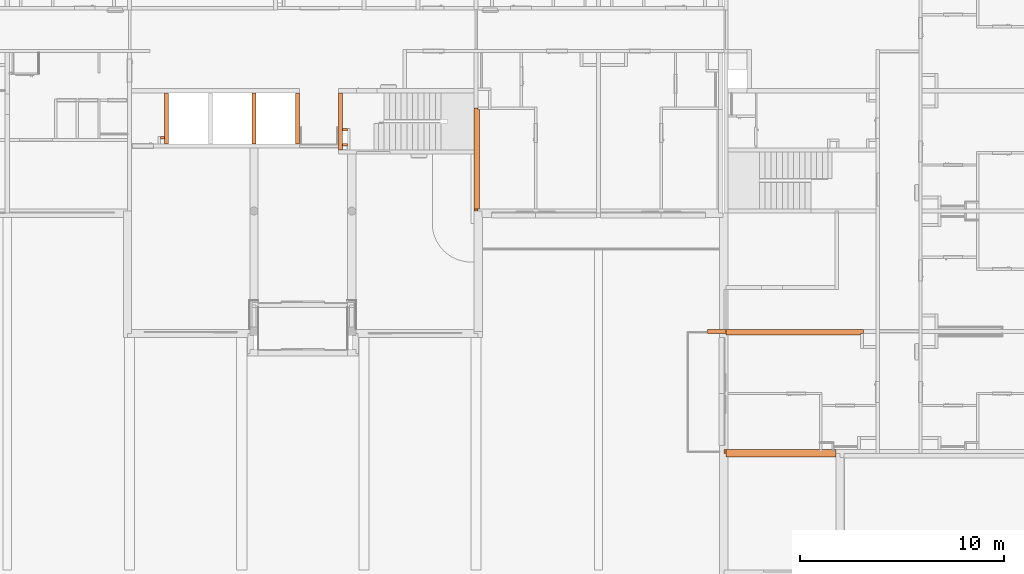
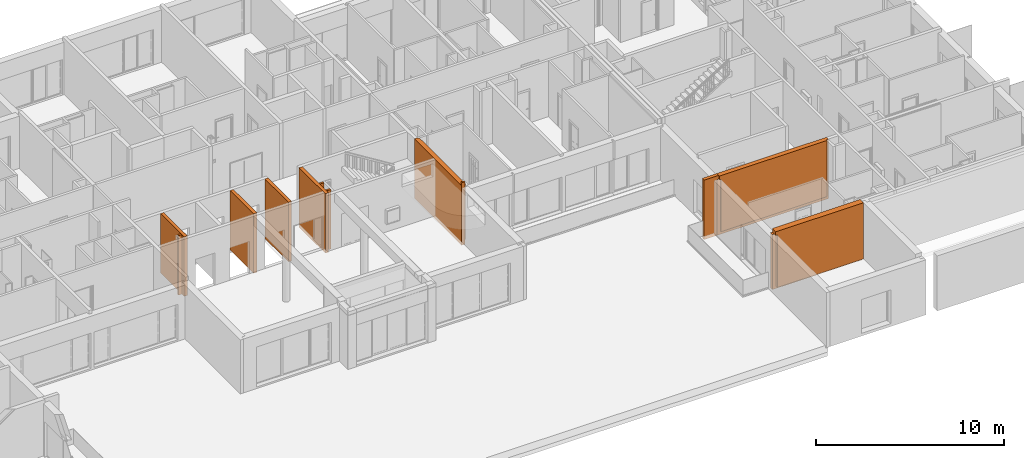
# One storey, part 37 of 46: 11 proxies.
"""IFC2X3 building model written with IfcOpenShell, lengths in millimetres."""

from ifc_helpers import new_model, entity, si_unit, converted_unit, derived_unit, money_unit, direction, frame, origin_with_axes, place, context, subcontext, project, spatial, faceted_brep, material, material_list, type_object, element, save


model = new_model("IFC2X3")

# Units and contexts
model_context = context("Model", 3, precision=0.01, world=origin_with_axes(), true_north=direction((0.34421633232, 0.938890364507)))
body_context = subcontext(model_context, "Body", "Model", "MODEL_VIEW")
ifc_project = project(units=[si_unit("LENGTHUNIT", "METRE", prefix="MILLI"), si_unit("AREAUNIT", "SQUARE_METRE"), si_unit("VOLUMEUNIT", "CUBIC_METRE"), converted_unit("PLANEANGLEUNIT", "DEGREE", entity("IfcPlaneAngleMeasure", 0.0174532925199), si_unit("PLANEANGLEUNIT", "RADIAN"), dimensions=[0, 0, 0, 0, 0, 0, 0]), si_unit("SOLIDANGLEUNIT", "STERADIAN"), money_unit("USD"), converted_unit("TIMEUNIT", "Year", entity("IfcTimeMeasure", 31556926.0), si_unit("TIMEUNIT", "SECOND"), dimensions=[0, 0, 1, 0, 0, 0, 0]), si_unit("MASSUNIT", "GRAM", prefix="KILO"), si_unit("THERMODYNAMICTEMPERATUREUNIT", "DEGREE_CELSIUS"), si_unit("LUMINOUSINTENSITYUNIT", "LUMEN"), si_unit("ENERGYUNIT", "JOULE", prefix="MEGA"), derived_unit("THERMALCONDUCTANCEUNIT", [(si_unit("POWERUNIT", "WATT"), 1), (si_unit("LENGTHUNIT", "METRE"), -1), (si_unit("THERMODYNAMICTEMPERATUREUNIT", "KELVIN"), -1)]), derived_unit("SPECIFICHEATCAPACITYUNIT", [(si_unit("ENERGYUNIT", "JOULE"), 1), (si_unit("MASSUNIT", "GRAM", prefix="KILO"), -1), (si_unit("THERMODYNAMICTEMPERATUREUNIT", "KELVIN"), -1)]), derived_unit("MASSDENSITYUNIT", [(si_unit("MASSUNIT", "GRAM", prefix="KILO"), 1), (si_unit("VOLUMEUNIT", "CUBIC_METRE"), -1)])], contexts=[model_context])

# Site, building, storey
site_placement = place(None, origin_with_axes())
site = spatial("IfcSite", under=ifc_project, at=site_placement, Name="USTRONIE MORSKIE", CompositionType="ELEMENT")
building_placement = place(site_placement, origin_with_axes())
building = spatial("IfcBuilding", under=site, at=building_placement, Name="Budynek", CompositionType="ELEMENT")
storey_placement = place(building_placement, origin_with_axes())
storey = spatial("IfcBuildingStorey", under=building, at=storey_placement, Name="PARTER", CompositionType="ELEMENT", Elevation=0.0)

# Proxies
ifc_material_1 = material(Name="Bloczki silikatowe")
building_element_proxy_type_1 = type_object("IfcBuildingElementProxyType", Name="Bloczki silikatowe 120", PredefinedType="NOTDEFINED")
proxy_1_placement = place(storey_placement, frame((389757.920919, 730101.199036, -230.0), z_axis=(0.0, 0.0, 1.0), x_axis=(1.0, 0.0, 0.0)))
element("IfcBuildingElementProxy", 1, at=proxy_1_placement, inside=storey, type_object=building_element_proxy_type_1, material=ifc_material_1, Name="SW-04", context=body_context, shape_type="Brep", body=[
    faceted_brep([(250.0, 120.0, 0.0), (250.0, 1.13686837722e-10, 0.0), (0.0, 0.0, 0.0), (0.0, 120.0, 0.0), (250.0, 120.0, 3870.0), (250.0, 1.13686837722e-10, 3870.0), (0.0, 0.0, 3870.0), (0.0, 120.0, 3870.0)], [[[0, 1, 2, 3]], [[1, 0, 4, 5]], [[1, 5, 6, 2]], [[7, 3, 2, 6]], [[4, 0, 3, 7]], [[5, 4, 7, 6]]]),
])
proxy_2_placement = place(storey_placement, frame((389757.920919, 730821.199036, -230.0), z_axis=(0.0, 0.0, 1.0), x_axis=(1.0, 0.0, 0.0)))
element("IfcBuildingElementProxy", 2, at=proxy_2_placement, inside=storey, type_object=building_element_proxy_type_1, material=ifc_material_1, Name="SW-04", context=body_context, shape_type="Brep", body=[
    faceted_brep([(250.0, 120.0, 0.0), (250.000000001, 1.13686837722e-10, 0.0), (0.0, 0.0, 0.0), (0.0, 120.0, 0.0), (250.0, 120.0, 3870.0), (250.000000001, 1.13686837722e-10, 3870.0), (0.0, 0.0, 3870.0), (0.0, 120.0, 3870.0)], [[[0, 1, 2, 3]], [[1, 0, 4, 5]], [[1, 5, 6, 2]], [[7, 3, 2, 6]], [[4, 0, 3, 7]], [[5, 4, 7, 6]]]),
])
proxy_3_placement = place(storey_placement, frame((380837.920919, 730441.199036, -230.0), z_axis=(0.0, 0.0, 1.0), x_axis=(1.0, 0.0, 0.0)))
element("IfcBuildingElementProxy", 3, at=proxy_3_placement, inside=storey, type_object=building_element_proxy_type_1, material=ifc_material_1, Name="SW-04", context=body_context, shape_type="Brep", body=[
    faceted_brep([(200.0, 120.0, 0.0), (200.0, 0.0, 0.0), (0.0, 0.0, 0.0), (0.0, 120.0, 0.0), (200.0, 120.0, 3870.0), (200.0, 0.0, 3870.0), (0.0, 0.0, 3870.0), (0.0, 120.0, 3870.0)], [[[0, 1, 2, 3]], [[1, 0, 4, 5]], [[1, 5, 6, 2]], [[7, 3, 2, 6]], [[4, 0, 3, 7]], [[5, 4, 7, 6]]]),
])
ifc_material_2 = material(Name="Beton konstrukcyjny B25")
building_element_proxy_type_2 = type_object("IfcBuildingElementProxyType", Name="Beton konstrukcyjny B25 200", PredefinedType="NOTDEFINED")
proxy_4_placement = place(storey_placement, frame((389657.920919, 729801.199036, -229.999387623), z_axis=(0.0, 0.0, 1.0), x_axis=(0.0, 1.0, 0.0)))
element("IfcBuildingElementProxy", 4, at=proxy_4_placement, inside=storey, type_object=building_element_proxy_type_2, material=ifc_material_2, Name="SW-01", context=body_context, shape_type="Brep", body=[
    faceted_brep([(2900.0, -100.0, 3869.99938762), (2900.0, 100.0, 3869.99938762), (100.0, 100.0, 3869.99938762), (100.0, -100.0, 3869.99938762), (2900.0, -100.0, 0.0), (2900.0, 100.0, 0.0), (100.0, 100.0, 0.0), (100.0, -100.0, 0.0)], [[[0, 1, 2, 3]], [[1, 0, 4, 5]], [[1, 5, 6, 2]], [[7, 3, 2, 6]], [[4, 0, 3, 7]], [[5, 4, 7, 6]]]),
])
proxy_5_placement = place(storey_placement, frame((387557.920919, 732801.199036, -230.0), z_axis=(0.0, 0.0, 1.0), x_axis=(0.0, -1.0, 0.0)))
element("IfcBuildingElementProxy", 5, at=proxy_5_placement, inside=storey, type_object=building_element_proxy_type_2, material=ifc_material_2, Name="SW-01", context=body_context, shape_type="Brep", body=[
    faceted_brep([(2610.0, -100.0, 3870.0), (2610.0, 100.0, 3870.0), (100.0, 100.0, 3870.0), (100.0, -100.0, 3870.0), (2610.0, -100.0, 0.0), (2610.0, 100.0, 0.0), (100.0, 100.0, 0.0), (100.0, -100.0, 0.0)], [[[0, 1, 2, 3]], [[1, 0, 4, 5]], [[1, 5, 6, 2]], [[7, 3, 2, 6]], [[4, 0, 3, 7]], [[5, 4, 7, 6]]]),
])
proxy_6_placement = place(storey_placement, frame((385417.920919, 732801.199036, -230.0), z_axis=(0.0, 0.0, 1.0), x_axis=(0.0, -1.0, 0.0)))
element("IfcBuildingElementProxy", 6, at=proxy_6_placement, inside=storey, type_object=building_element_proxy_type_2, material=ifc_material_2, Name="SW-01", context=body_context, shape_type="Brep", body=[
    faceted_brep([(100.0, -100.0, 0.0), (100.0, -100.0, 3870.0), (100.0, 100.0, 3870.0), (100.0, 100.0, 0.0), (2610.0, -99.9999999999, 0.0), (2610.0, -99.9999999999, 3870.0), (2610.0, 100.0, 3870.0), (2610.0, 100.0, 0.0)], [[[0, 1, 2, 3]], [[4, 5, 1, 0]], [[5, 6, 2, 1]], [[3, 2, 6, 7]], [[7, 4, 0, 3]], [[7, 6, 5, 4]]]),
])
proxy_7_placement = place(storey_placement, frame((407667.88964, 721001.199036, -230.0), z_axis=(0.0, 0.0, 1.0), x_axis=(1.0, 0.0, 0.0)))
element("IfcBuildingElementProxy", 7, at=proxy_7_placement, inside=storey, type_object=building_element_proxy_type_2, material=ifc_material_2, Name="SW-01", context=body_context, shape_type="Brep", body=[
    faceted_brep([(900.045279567, -100.0, 3870.0), (900.045279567, -100.0, 3630.0), (900.045279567, 100.0, 3630.0), (900.045279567, 100.0, 3870.0), (800.045160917, -100.0, 0.0), (800.045160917, -100.0, 3630.0), (0.0, -100.0, 3870.0), (0.0, -100.0, 0.0), (800.045398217, 100.0, 3630.0), (800.045398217, 100.0, 0.0), (0.0, 100.0, 0.0), (0.0, 100.0, 3870.0)], [[[0, 1, 2, 3]], [[4, 5, 1, 0, 6, 7]], [[5, 8, 2, 1]], [[2, 8, 9, 10, 11, 3]], [[11, 6, 0, 3]], [[4, 9, 8, 5]], [[7, 6, 11, 10]], [[10, 9, 4, 7]]]),
])
proxy_8_placement = place(storey_placement, frame((381137.920919, 732801.199036, -230.0), z_axis=(0.0, 0.0, 1.0), x_axis=(0.0, -1.0, 0.0)))
element("IfcBuildingElementProxy", 8, at=proxy_8_placement, inside=storey, type_object=building_element_proxy_type_2, material=ifc_material_2, Name="SW-01", context=body_context, shape_type="Brep", body=[
    faceted_brep([(2610.0, -100.0, 3870.0), (2610.0, 100.0, 3870.0), (100.0, 100.0, 3870.0), (100.0, -100.0, 3870.0), (2610.0, -100.0, 0.0), (2610.0, 100.0, 0.0), (100.0, 100.0, 0.0), (100.0, -100.0, 0.0)], [[[0, 1, 2, 3]], [[1, 0, 4, 5]], [[1, 5, 6, 2]], [[7, 3, 2, 6]], [[4, 0, 3, 7]], [[5, 4, 7, 6]]]),
])
ifc_material_3 = material(Name="Wełna ELEW")
ifc_material_4 = material(Name="Tynk zewnętrzny")
ifc_material_list_1 = material_list([ifc_material_2, ifc_material_3, ifc_material_4])
building_element_proxy_type_3 = type_object("IfcBuildingElementProxyType", Name="20+15 360", PredefinedType="NOTDEFINED")
proxy_9_placement = place(storey_placement, frame((408567.927919, 715101.199036, -180.0), z_axis=(0.0, 0.0, 1.0), x_axis=(1.0, 0.0, 0.0)))
element("IfcBuildingElementProxy", 9, at=proxy_9_placement, inside=storey, type_object=building_element_proxy_type_3, material=ifc_material_list_1, Name="SZ-02", context=body_context, shape_type="Brep", body=[
    faceted_brep([(-99.99988135, 100.0, 0.0), (-99.9998813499, 100.0, 3580.0), (0.0, 100.0, 3580.0), (0.0, 100.0, 3820.0), (5399.99299965, 100.0, 3820.0), (5399.99299965, 100.0, 0.0), (-100.00011865, -100.0, 3580.0), (-100.00011865, -100.0, 0.0), (0.0, -100.0, 3580.0), (0.0, -100.0, 3820.0), (5399.99299965, -100.0, 3820.0), (5399.99299965, -100.0, 0.0)], [[[0, 1, 2, 3, 4, 5]], [[6, 1, 0, 7]], [[1, 6, 8, 2]], [[8, 9, 3, 2]], [[4, 3, 9, 10]], [[10, 11, 5, 4]], [[7, 0, 5, 11]], [[6, 7, 11, 10, 9, 8]]]),
    faceted_brep([(5399.99299965, -250.0, 165.0), (5399.99299965, -100.0, 165.0), (5399.99299965, -100.0, 3820.0), (5399.99299965, -250.0, 3820.0), (100.001458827, -100.000000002, 165.0), (100.001236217, -250.000000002, 165.0), (99.99988135, -100.0, 3580.0), (0.0, -100.0, 3580.0), (0.0, -100.0, 3820.0), (0.0, -250.0, 3820.0), (0.0, -250.0, 3580.0), (99.9997033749, -250.0, 3580.0)], [[[0, 1, 2, 3]], [[4, 1, 0, 5]], [[1, 4, 6, 7, 8, 2]], [[3, 2, 8, 9]], [[5, 0, 3, 9, 10, 11]], [[4, 5, 11, 6]], [[10, 7, 6, 11]], [[8, 7, 10, 9]]]),
    faceted_brep([(5399.99299965, -260.0, 165.0), (5399.99299965, -250.0, 165.0), (5399.99299965, -250.0, 3820.0), (5399.99299965, -260.0, 3820.0), (100.001236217, -250.000000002, 165.0), (100.001221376, -260.000000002, 165.0), (99.9997033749, -250.0, 3580.0), (0.0, -250.0, 3580.0), (0.0, -250.0, 3820.0), (0.0, -260.0, 3820.0), (0.0, -260.0, 3580.0), (99.9996915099, -260.0, 3580.0)], [[[0, 1, 2, 3]], [[4, 1, 0, 5]], [[1, 4, 6, 7, 8, 2]], [[3, 2, 8, 9]], [[5, 0, 3, 9, 10, 11]], [[4, 5, 11, 6]], [[10, 7, 6, 11]], [[8, 7, 10, 9]]]),
])
ifc_material_5 = material(Name="Izolacja akustyczna")
ifc_material_6 = material(Name="Płyta GK")
ifc_material_list_2 = material_list([ifc_material_2, ifc_material_5, ifc_material_6])
building_element_proxy_type_4 = type_object("IfcBuildingElementProxyType", Name="20+5 AKU 275", PredefinedType="NOTDEFINED")
proxy_10_placement = place(storey_placement, frame((396317.920919, 726901.199036, -230.0), z_axis=(0.0, 0.0, 1.0), x_axis=(0.0, 1.0, 0.0)))
element("IfcBuildingElementProxy", 10, at=proxy_10_placement, inside=storey, type_object=building_element_proxy_type_4, material=ifc_material_list_2, Name="Œciana-007", context=body_context, shape_type="Brep", body=[
    faceted_brep([(5050.00009633, 100.0, 3870.0), (100.0, 100.0, 3870.0), (100.0, -100.0, 3870.0), (5050.00009633, -100.0, 3870.0), (5050.00009633, 100.0, 0.0), (0.0, 100.0, 0.0), (0.0, 100.0, 4070.0), (100.0, 100.0, 4070.0), (100.0, -100.0, 4070.0), (0.0, -100.0, 4070.0), (0.0, -100.0, 0.0), (5050.00009633, -100.0, 0.0)], [[[0, 1, 2, 3]], [[1, 0, 4, 5, 6, 7]], [[7, 8, 2, 1]], [[2, 8, 9, 10, 11, 3]], [[0, 3, 11, 4]], [[11, 10, 5, 4]], [[10, 9, 6, 5]], [[8, 7, 6, 9]]]),
    faceted_brep([(100.0, -150.0, 215.0), (4990.00009633, -150.0, 215.0), (4990.00009633, -150.0, 3870.0), (100.0, -150.0, 3870.0), (100.0, -100.0, 215.0), (4990.00009633, -100.0, 215.0), (4990.00009633, -100.0, 3870.0), (100.0, -100.0, 3870.0)], [[[0, 1, 2, 3]], [[1, 0, 4, 5]], [[1, 5, 6, 2]], [[6, 7, 3, 2]], [[4, 0, 3, 7]], [[4, 7, 6, 5]]]),
    faceted_brep([(100.0, -175.0, 215.0), (4990.00009633, -175.0, 215.0), (4990.00009633, -175.0, 3870.0), (100.0, -175.0, 3870.0), (100.0, -150.0, 215.0), (4990.00009633, -150.0, 215.0), (4990.00009633, -150.0, 3870.0), (100.0, -150.0, 3870.0)], [[[0, 1, 2, 3]], [[1, 0, 4, 5]], [[1, 5, 6, 2]], [[6, 7, 3, 2]], [[4, 0, 3, 7]], [[4, 7, 6, 5]]]),
])
ifc_material_list_3 = material_list([ifc_material_6, ifc_material_5, ifc_material_2])
proxy_11_placement = place(storey_placement, frame((415317.920919, 721001.199036, -230.0), z_axis=(0.0, 0.0, 1.0), x_axis=(-1.0, 0.0, 0.0)))
element("IfcBuildingElementProxy", 11, at=proxy_11_placement, inside=storey, type_object=building_element_proxy_type_4, material=ifc_material_list_3, Name="SW-01", context=body_context, shape_type="Brep", body=[
    faceted_brep([(150.0, 175.0, 215.0), (150.0, 150.0, 215.0), (150.0, 150.0, 3870.0), (150.0, 175.0, 3870.0), (6649.98285903, 150.000000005, 215.0), (6649.98289613, 175.000000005, 215.0), (6649.98617727, 150.0, 3630.0), (6749.98599929, 150.0, 3630.0), (6749.98599929, 150.0, 3870.0), (6749.98599929, 175.0, 3870.0), (6749.98599929, 175.0, 3630.0), (6649.98620693, 175.0, 3630.0)], [[[0, 1, 2, 3]], [[4, 1, 0, 5]], [[1, 4, 6, 7, 8, 2]], [[9, 3, 2, 8]], [[5, 0, 3, 9, 10, 11]], [[4, 5, 11, 6]], [[10, 7, 6, 11]], [[8, 7, 10, 9]]]),
    faceted_brep([(150.0, 150.0, 215.0), (150.0, 100.0, 215.0), (150.0, 100.0, 3870.0), (150.0, 150.0, 3870.0), (6649.98278482, 100.000000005, 215.0), (6649.98285903, 150.000000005, 215.0), (6649.98611794, 100.0, 3630.0), (6749.98599929, 100.0, 3630.0), (6749.98599929, 100.0, 3870.0), (6749.98599929, 150.0, 3870.0), (6749.98599929, 150.0, 3630.0), (6649.98617727, 150.0, 3630.0)], [[[0, 1, 2, 3]], [[4, 1, 0, 5]], [[1, 4, 6, 7, 8, 2]], [[9, 3, 2, 8]], [[5, 0, 3, 9, 10, 11]], [[4, 5, 11, 6]], [[10, 7, 6, 11]], [[8, 7, 10, 9]]]),
    faceted_brep([(6849.98588064, -100.0, 0.0), (6849.98588064, -100.0, 3630.0), (6749.98599929, -100.0, 3630.0), (6749.98599929, -100.0, 3870.0), (0.0, -100.0, 3870.0), (0.0, -100.0, 0.0), (6849.98611794, 100.0, 3630.0), (6849.98611794, 100.0, 0.0), (6749.98599929, 100.0, 3630.0), (6749.98599929, 100.0, 3870.0), (0.0, 100.0, 3870.0), (0.0, 100.0, 0.0)], [[[0, 1, 2, 3, 4, 5]], [[6, 1, 0, 7]], [[1, 6, 8, 2]], [[8, 9, 3, 2]], [[4, 3, 9, 10]], [[11, 5, 4, 10]], [[7, 0, 5, 11]], [[6, 7, 11, 10, 9, 8]]]),
])

save(model, "model.ifc")
